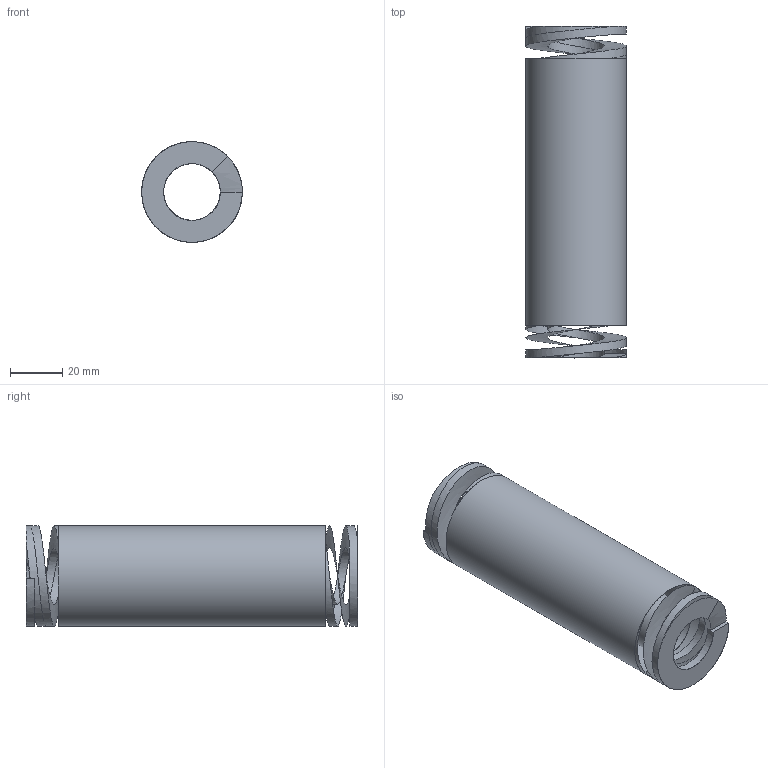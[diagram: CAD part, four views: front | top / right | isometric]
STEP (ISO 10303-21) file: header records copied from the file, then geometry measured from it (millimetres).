
FILE_DESCRIPTION(/* description */ ('Max 30% | 38.1 | 4877'),/* implementation_level */ '2;1');
FILE_NAME(/* name */ '3S38126.step',/* time_stamp */ '2026-10-07T11:44:40+02:00',/* author */ ('3S'),/* organization */ ('8,4x6,2 prostokatny'),/* preprocessor_version */ 'ST-DEVELOPER v20.1',/* originating_system */ 'Autodesk Inventor 2026',/* authorisation */ '128');
FILE_SCHEMA (('AUTOMOTIVE_DESIGN { 1 0 10303 214 3 1 1 }'));
Length unit declared in the file: millimetre
Products named in the file (1): 3S38126
Bounding box: 38.51 x 127 x 38.51 mm (x, y, z)
Volume: 93374.8 mm3; surface area: 27839.2 mm2
Topology: 1 solids, 1 shells, 22 faces, 60 edges, 38 vertices
Faces by surface type: bspline 14, plane 6, cylinder 2
Full cylindrical faces by diameter (mm): 21.699 x1, 38.501 x1
Entity records: 2886 total; most frequent: CARTESIAN_POINT 2410, ORIENTED_EDGE 120, EDGE_CURVE 60, B_SPLINE_CURVE_WITH_KNOTS 48, VERTEX_POINT 38, DIRECTION 34, EDGE_LOOP 26, FACE_OUTER_BOUND 22
